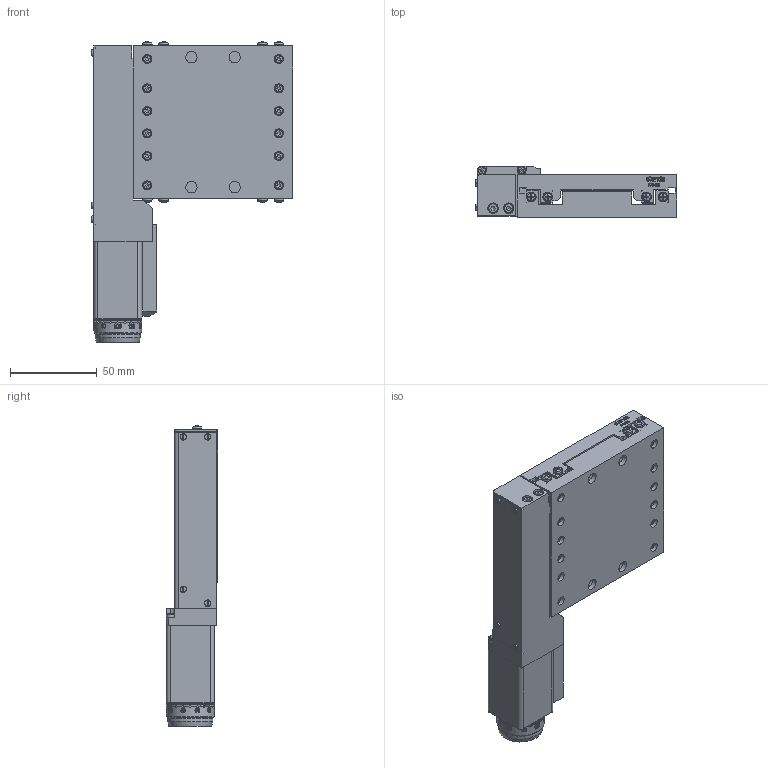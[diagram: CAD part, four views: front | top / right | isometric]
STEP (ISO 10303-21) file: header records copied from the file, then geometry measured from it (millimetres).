
FILE_DESCRIPTION(/* description */ (''),/* implementation_level */ '2;1');
FILE_NAME(/* name */ 'C:\Users\dsgn39\Desktop\Internetui\8MT167S-25BS1\8MT167S-25BS1.stp',/* time_stamp */ '2016-11-08T15:29:23+02:00',/* author */ ('dsgn39'),/* organization */ (''),/* preprocessor_version */ 'ST-DEVELOPER v15.2',/* originating_system */ 'Autodesk Inventor 2014',/* authorisation */ '');
FILE_SCHEMA (('AUTOMOTIVE_DESIGN { 1 0 10303 214 3 1 1 }'));
Products named in the file (2): Part2; Assembly1
Bounding box: 116.3 x 30 x 173.38 mm (x, y, z)
Volume: 293933.4 mm3; surface area: 79668.9 mm2
Topology: 4 solids, 39 shells, 1634 faces, 4599 edges, 3141 vertices
Faces by surface type: plane 868, cylinder 317, bspline 193, cone 168, torus 80, sphere 8
Full cylindrical faces by diameter (mm): 1.567 x2, 1.783 x4, 2 x6, 2.013 x10, 2.4 x2, 2.5 x22, 2.9 x12, 3 x16, 3.242 x4, 3.4 x2, 4.5 x18, 4.9 x4, 4.917 x13, 5 x2, 5.2 x12, 5.5 x2, 6 x4, 6.5 x4, 7 x2, 7.2 x1, 11 x4, 25 x1, 26 x1, 27.5 x1
Entity records: 100155 total; most frequent: CARTESIAN_POINT 60761, ORIENTED_EDGE 8340, DIRECTION 7552, EDGE_CURVE 4169, VERTEX_POINT 3004, AXIS2_PLACEMENT_3D 2769, EDGE_LOOP 2140, LINE 2014
